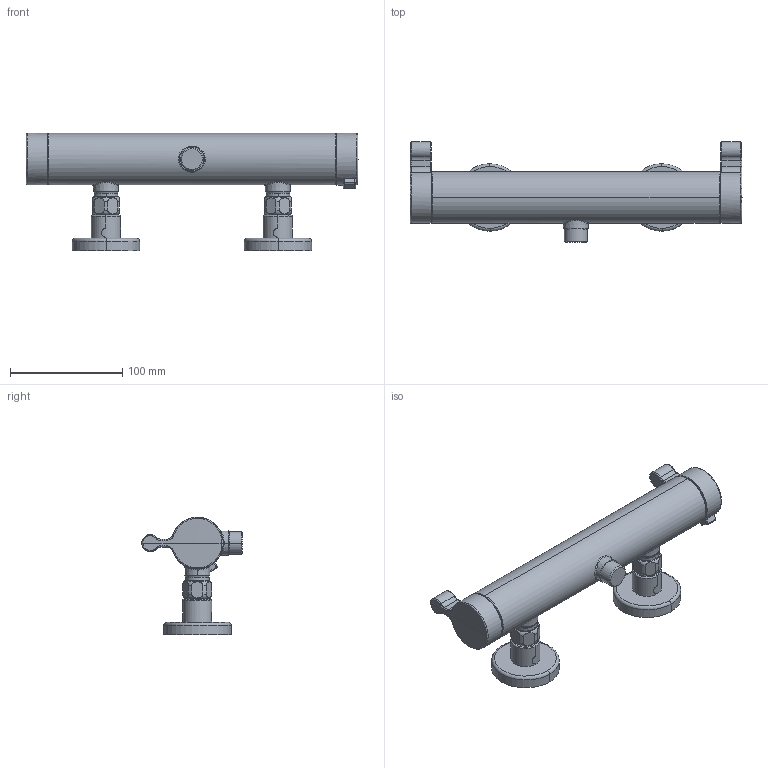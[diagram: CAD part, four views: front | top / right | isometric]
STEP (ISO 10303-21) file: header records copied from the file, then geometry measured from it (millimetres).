
FILE_DESCRIPTION((''),'2;1');
FILE_NAME('26529810','2020-08-26T15:39:13',('SN986'),(''),'CREO PARAMETRIC BY PTC INC, 2018500','CREO PARAMETRIC BY PTC INC, 2018500','');
FILE_SCHEMA(('CONFIG_CONTROL_DESIGN'));
Length unit declared in the file: millimetre
Products named in the file (1): 26529810
Bounding box: 295.45 x 89.5 x 104.6 mm (x, y, z)
Volume: 614054.3 mm3; surface area: 74011 mm2
Topology: 3 solids, 3 shells, 193 faces, 438 edges, 260 vertices
Faces by surface type: cylinder 56, torus 50, plane 39, bspline 28, cone 12, sphere 8
Entity records: 10156 total; most frequent: CARTESIAN_POINT 5929, DIRECTION 908, ORIENTED_EDGE 868, EDGE_CURVE 434, AXIS2_PLACEMENT_3D 405, VERTEX_POINT 260, CIRCLE 240, EDGE_LOOP 206
